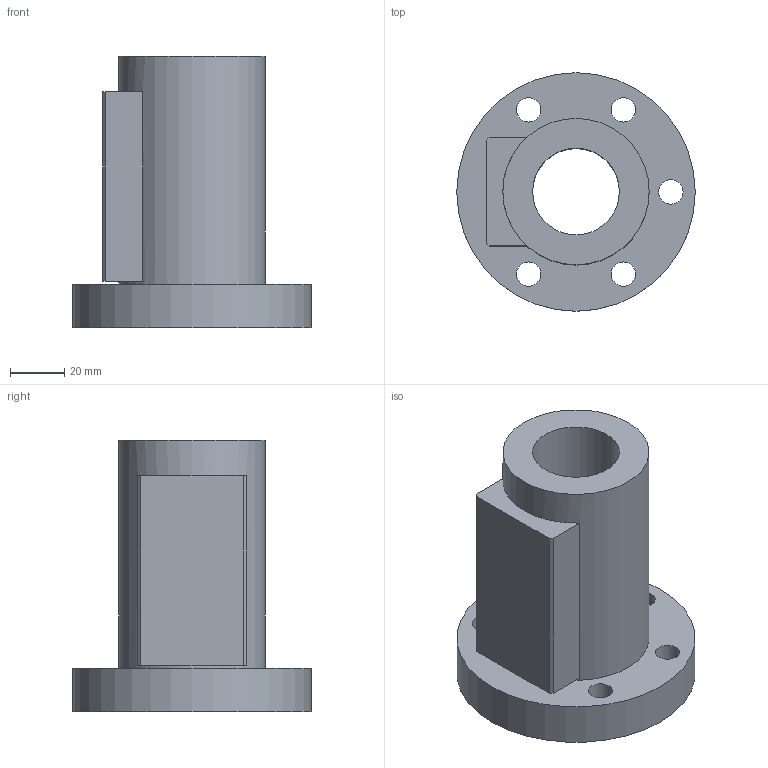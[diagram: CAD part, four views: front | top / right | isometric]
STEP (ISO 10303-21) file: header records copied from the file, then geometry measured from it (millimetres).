
FILE_DESCRIPTION(/* description */ (''),/* implementation_level */ '2;1');
FILE_NAME(/* name */ '32-20B1',/* time_stamp */ '2006-07-31T10:11:34+08:00',/* author */ (''),/* organization */ (''),/* preprocessor_version */ 'ST-DEVELOPER v9',/* originating_system */ 'UGS - NX 4.0',/* authorisation */ '');
FILE_SCHEMA (('CONFIG_CONTROL_DESIGN'));
Length unit declared in the file: millimetre
Products named in the file (1): 32-20B1
Bounding box: 88 x 88 x 100 mm (x, y, z)
Volume: 224708.2 mm3; surface area: 43917.5 mm2
Topology: 1 solids, 1 shells, 28 faces, 61 edges, 42 vertices
Faces by surface type: plane 15, cylinder 13
Full cylindrical faces by diameter (mm): 9 x5, 14 x5, 32 x1, 54 x1, 88 x1
Entity records: 794 total; most frequent: DIRECTION 130, CARTESIAN_POINT 111, ORIENTED_EDGE 88, EDGE_LOOP 60, AXIS2_PLACEMENT_3D 57, FACE_BOUND 45, EDGE_CURVE 44, VERTEX_POINT 38
